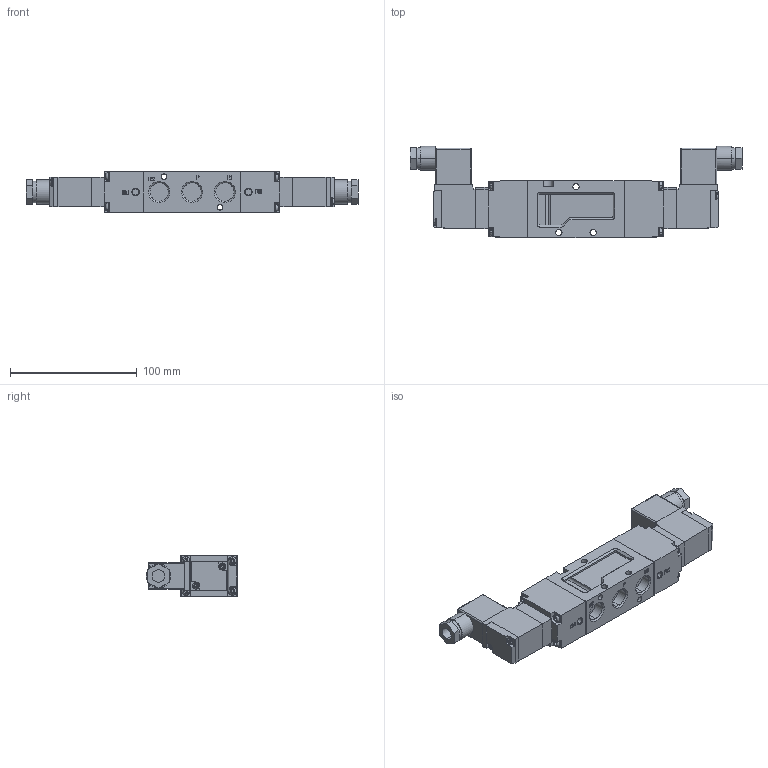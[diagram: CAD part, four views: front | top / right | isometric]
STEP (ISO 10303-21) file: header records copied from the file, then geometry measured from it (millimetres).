
FILE_DESCRIPTION (( 'STEP AP203' ), '1' );
FILE_NAME ('RKD(E¡BO)3450-03-#-D.STEP', '2016-02-17T01:09:19', ( 'Sam Lin' ), ( '' ), 'SwSTEP 2.0', 'SolidWorks 2013', '' );
FILE_SCHEMA (( 'CONFIG_CONTROL_DESIGN' ));
Length unit declared in the file: metre
Products named in the file (10): PILOT_BODY_1; PILOT_COVER; PILOT_COVER_1; ADAPTER_SV330; RKD(E、O)3450-03-#-D; ADAPTER_SV330_1; BODY_SV300; COIL_ASM_D; COIL_ASM_D_1; PILOT_BODY
Assembly tree (9 placements, depth 2):
  RKD(E、O)3450-03-#-D
    ADAPTER_SV330
    ADAPTER_SV330_1
    BODY_SV300
    COIL_ASM_D
    COIL_ASM_D_1
    PILOT_BODY
    PILOT_BODY_1
    PILOT_COVER
    PILOT_COVER_1
Bounding box: 262.1 x 72.02 x 32 mm (x, y, z)
Volume: 286107.9 mm3; surface area: 64041.6 mm2
Topology: 9 solids, 9 shells, 898 faces, 2392 edges, 1558 vertices
Faces by surface type: plane 641, cylinder 181, torus 44, cone 20, bspline 12
Entity records: 31057 total; most frequent: CARTESIAN_POINT 7794, ORIENTED_EDGE 4784, DIRECTION 4377, EDGE_CURVE 2392, LINE 1615, VECTOR 1615, VERTEX_POINT 1558, AXIS2_PLACEMENT_3D 1381
